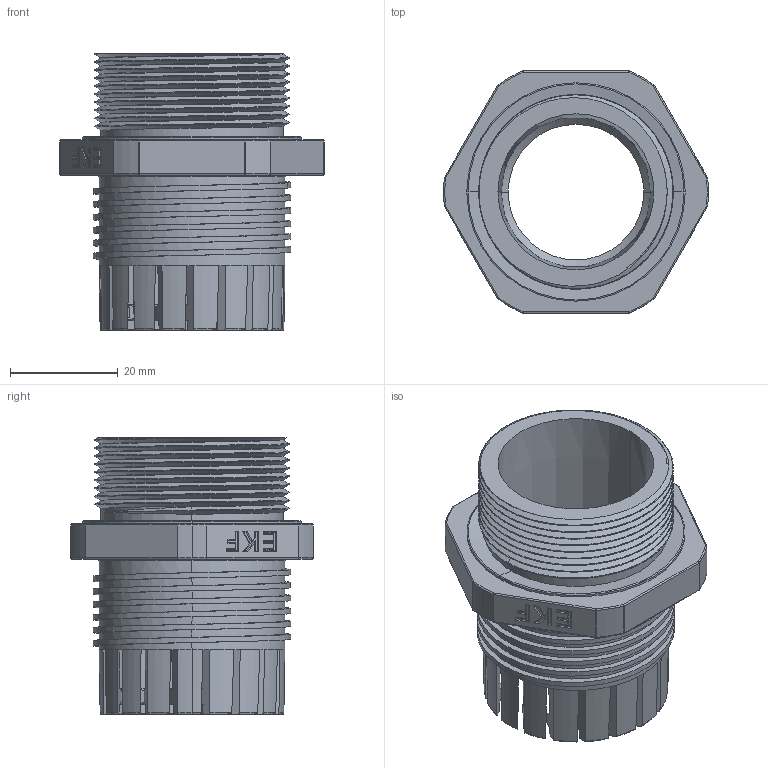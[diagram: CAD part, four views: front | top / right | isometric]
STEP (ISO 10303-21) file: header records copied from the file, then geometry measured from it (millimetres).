
FILE_DESCRIPTION (( 'STEP AP214' ), '1' );
FILE_NAME ('plc-pg-29-00.00.001 昢膼瘔 (PG29) #base (PG29)#.STEP', '2024-04-24T10:00:03', ( '' ), ( '' ), 'SwSTEP 2.0', 'SolidWorks 2021', '' );
FILE_SCHEMA (( 'AUTOMOTIVE_DESIGN' ));
Length unit declared in the file: millimetre
Products named in the file (1): plc-pg-29-00.00.001 昢膼瘔 (PG29) #base (PG29)#
Bounding box: 49.22 x 45.08 x 51.38 mm (x, y, z)
Volume: 19828.6 mm3; surface area: 16357 mm2
Topology: 1 solids, 2 shells, 456 faces, 1205 edges, 753 vertices
Faces by surface type: cylinder 138, cone 92, plane 92, torus 58, bspline 52, sphere 24
Entity records: 33650 total; most frequent: CARTESIAN_POINT 22482, ORIENTED_EDGE 2394, DIRECTION 1818, EDGE_CURVE 1197, AXIS2_PLACEMENT_3D 763, VERTEX_POINT 753, EDGE_LOOP 470, ADVANCED_FACE 456
